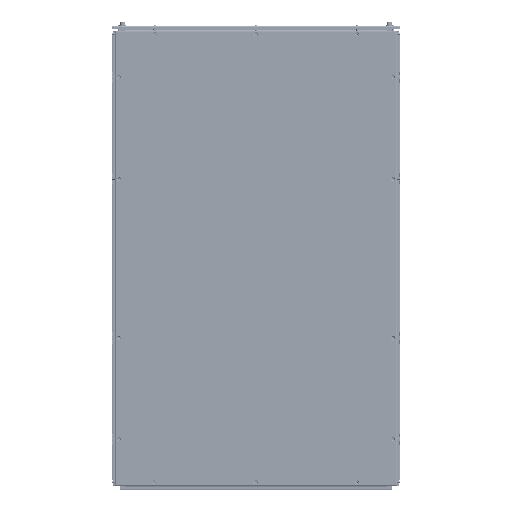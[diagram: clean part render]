
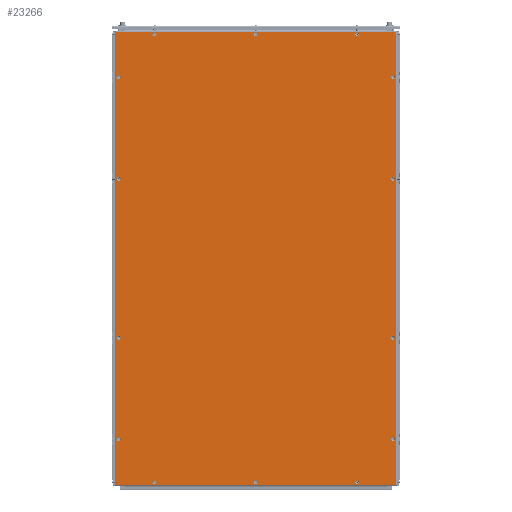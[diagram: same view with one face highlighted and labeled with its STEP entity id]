
A CAD part, left-side view. The second image highlights one B-rep face of the part: STEP entity #23266.
In plain terms, the highlighted planar face has unit normal (-1, 0, 0) as drawn and (1, 0, 0) by its records, which use the part's own axes.
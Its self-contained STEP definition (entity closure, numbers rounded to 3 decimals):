
#23266=ADVANCED_FACE('',(#136383,#136385,#136387,#136389,#136391,#136393,#136395,
#136397,#136399,#136401,#136403,#136405,#136407,#136409,#136411),#136413,.T.);
#136383=FACE_BOUND('',#136384,.T.);
#136384=EDGE_LOOP('',(#345913,#345914,#345915,#345916));
#136385=FACE_BOUND('',#136386,.T.);
#136386=EDGE_LOOP('',(#345917));
#136387=FACE_BOUND('',#136388,.T.);
#136388=EDGE_LOOP('',(#345918));
#136389=FACE_BOUND('',#136390,.T.);
#136390=EDGE_LOOP('',(#345919));
#136391=FACE_BOUND('',#136392,.T.);
#136392=EDGE_LOOP('',(#345920));
#136393=FACE_BOUND('',#136394,.T.);
#136394=EDGE_LOOP('',(#345921));
#136395=FACE_BOUND('',#136396,.T.);
#136396=EDGE_LOOP('',(#345922));
#136397=FACE_BOUND('',#136398,.T.);
#136398=EDGE_LOOP('',(#345923));
#136399=FACE_BOUND('',#136400,.T.);
#136400=EDGE_LOOP('',(#345924));
#136401=FACE_BOUND('',#136402,.T.);
#136402=EDGE_LOOP('',(#345925));
#136403=FACE_BOUND('',#136404,.T.);
#136404=EDGE_LOOP('',(#345926));
#136405=FACE_BOUND('',#136406,.T.);
#136406=EDGE_LOOP('',(#345927));
#136407=FACE_BOUND('',#136408,.T.);
#136408=EDGE_LOOP('',(#345928));
#136409=FACE_BOUND('',#136410,.T.);
#136410=EDGE_LOOP('',(#345929));
#136411=FACE_BOUND('',#136412,.T.);
#136412=EDGE_LOOP('',(#345930));
#136413=PLANE('',#136414);
#136414=AXIS2_PLACEMENT_3D('',#136415,#136416,#136417);
#136415=CARTESIAN_POINT('',(1.5,0.,0.));
#136416=DIRECTION('',(1.,0.,0.));
#136417=DIRECTION('',(0.,1.,0.));
#345913=ORIENTED_EDGE('',*,*,#387750,.T.);
#345914=ORIENTED_EDGE('',*,*,#387756,.T.);
#345915=ORIENTED_EDGE('',*,*,#387754,.T.);
#345916=ORIENTED_EDGE('',*,*,#387752,.T.);
#345917=ORIENTED_EDGE('',*,*,#387771,.T.);
#345918=ORIENTED_EDGE('',*,*,#387772,.T.);
#345919=ORIENTED_EDGE('',*,*,#387773,.T.);
#345920=ORIENTED_EDGE('',*,*,#387774,.T.);
#345921=ORIENTED_EDGE('',*,*,#387775,.T.);
#345922=ORIENTED_EDGE('',*,*,#387776,.T.);
#345923=ORIENTED_EDGE('',*,*,#387777,.T.);
#345924=ORIENTED_EDGE('',*,*,#387778,.T.);
#345925=ORIENTED_EDGE('',*,*,#387779,.T.);
#345926=ORIENTED_EDGE('',*,*,#387780,.T.);
#345927=ORIENTED_EDGE('',*,*,#387781,.T.);
#345928=ORIENTED_EDGE('',*,*,#387782,.T.);
#345929=ORIENTED_EDGE('',*,*,#387783,.T.);
#345930=ORIENTED_EDGE('',*,*,#387784,.T.);
#387750=EDGE_CURVE('',#443350,#443348,#443351,.T.);
#387752=EDGE_CURVE('',#443353,#443350,#443354,.T.);
#387754=EDGE_CURVE('',#443356,#443353,#443357,.T.);
#387756=EDGE_CURVE('',#443348,#443356,#443359,.T.);
#387771=EDGE_CURVE('',#443388,#443388,#443389,.F.);
#387772=EDGE_CURVE('',#443390,#443390,#443391,.F.);
#387773=EDGE_CURVE('',#443392,#443392,#443393,.F.);
#387774=EDGE_CURVE('',#443394,#443394,#443395,.F.);
#387775=EDGE_CURVE('',#443396,#443396,#443397,.F.);
#387776=EDGE_CURVE('',#443398,#443398,#443399,.F.);
#387777=EDGE_CURVE('',#443400,#443400,#443401,.F.);
#387778=EDGE_CURVE('',#443402,#443402,#443403,.F.);
#387779=EDGE_CURVE('',#443404,#443404,#443405,.F.);
#387780=EDGE_CURVE('',#443406,#443406,#443407,.F.);
#387781=EDGE_CURVE('',#443408,#443408,#443409,.F.);
#387782=EDGE_CURVE('',#443410,#443410,#443411,.F.);
#387783=EDGE_CURVE('',#443412,#443412,#443413,.F.);
#387784=EDGE_CURVE('',#443414,#443414,#443415,.T.);
#443348=VERTEX_POINT('',#569603);
#443350=VERTEX_POINT('',#569608);
#443351=LINE('',#569609,#569610);
#443353=VERTEX_POINT('',#569616);
#443354=LINE('',#569617,#569618);
#443356=VERTEX_POINT('',#569624);
#443357=LINE('',#569625,#569626);
#443359=LINE('',#569632,#569633);
#443388=VERTEX_POINT('',#569705);
#443389=CIRCLE('',#569706,6.954);
#443390=VERTEX_POINT('',#569710);
#443391=CIRCLE('',#569711,6.954);
#443392=VERTEX_POINT('',#569715);
#443393=CIRCLE('',#569716,6.954);
#443394=VERTEX_POINT('',#569720);
#443395=CIRCLE('',#569721,6.954);
#443396=VERTEX_POINT('',#569725);
#443397=CIRCLE('',#569726,6.954);
#443398=VERTEX_POINT('',#569730);
#443399=CIRCLE('',#569731,6.954);
#443400=VERTEX_POINT('',#569735);
#443401=CIRCLE('',#569736,6.954);
#443402=VERTEX_POINT('',#569740);
#443403=CIRCLE('',#569741,6.954);
#443404=VERTEX_POINT('',#569745);
#443405=CIRCLE('',#569746,6.954);
#443406=VERTEX_POINT('',#569750);
#443407=CIRCLE('',#569751,6.954);
#443408=VERTEX_POINT('',#569755);
#443409=CIRCLE('',#569756,6.954);
#443410=VERTEX_POINT('',#569760);
#443411=CIRCLE('',#569761,6.954);
#443412=VERTEX_POINT('',#569765);
#443413=CIRCLE('',#569766,6.954);
#443414=VERTEX_POINT('',#569770);
#443415=CIRCLE('',#569771,6.954);
#569603=CARTESIAN_POINT('',(1.5,-483.7,-782.7));
#569608=CARTESIAN_POINT('',(1.5,-483.7,782.7));
#569609=CARTESIAN_POINT('',(1.5,-483.7,782.7));
#569610=VECTOR('',#569611,1.);
#569611=DIRECTION('',(0.,0.,-1.));
#569616=CARTESIAN_POINT('',(1.5,483.7,782.7));
#569617=CARTESIAN_POINT('',(1.5,483.7,782.7));
#569618=VECTOR('',#569619,1.);
#569619=DIRECTION('',(0.,-1.,0.));
#569624=CARTESIAN_POINT('',(1.5,483.7,-782.7));
#569625=CARTESIAN_POINT('',(1.5,483.7,-782.7));
#569626=VECTOR('',#569627,1.);
#569627=DIRECTION('',(0.,0.,1.));
#569632=CARTESIAN_POINT('',(1.5,-483.7,-782.7));
#569633=VECTOR('',#569634,1.);
#569634=DIRECTION('',(0.,1.,0.));
#569705=CARTESIAN_POINT('',(1.5,6.954,-773.5));
#569706=AXIS2_PLACEMENT_3D('',#569707,#569708,#569709);
#569707=CARTESIAN_POINT('',(1.5,0.,-773.5));
#569708=DIRECTION('',(1.,0.,0.));
#569709=DIRECTION('',(0.,1.,0.));
#569710=CARTESIAN_POINT('',(1.5,6.954,773.5));
#569711=AXIS2_PLACEMENT_3D('',#569712,#569713,#569714);
#569712=CARTESIAN_POINT('',(1.5,0.,773.5));
#569713=DIRECTION('',(1.,0.,0.));
#569714=DIRECTION('',(0.,1.,0.));
#569715=CARTESIAN_POINT('',(1.5,356.954,773.5));
#569716=AXIS2_PLACEMENT_3D('',#569717,#569718,#569719);
#569717=CARTESIAN_POINT('',(1.5,350.,773.5));
#569718=DIRECTION('',(1.,0.,0.));
#569719=DIRECTION('',(0.,1.,0.));
#569720=CARTESIAN_POINT('',(1.5,356.954,-773.5));
#569721=AXIS2_PLACEMENT_3D('',#569722,#569723,#569724);
#569722=CARTESIAN_POINT('',(1.5,350.,-773.5));
#569723=DIRECTION('',(1.,0.,0.));
#569724=DIRECTION('',(0.,1.,0.));
#569725=CARTESIAN_POINT('',(1.5,-343.046,773.5));
#569726=AXIS2_PLACEMENT_3D('',#569727,#569728,#569729);
#569727=CARTESIAN_POINT('',(1.5,-350.,773.5));
#569728=DIRECTION('',(1.,0.,0.));
#569729=DIRECTION('',(0.,1.,0.));
#569730=CARTESIAN_POINT('',(1.5,-343.046,-773.5));
#569731=AXIS2_PLACEMENT_3D('',#569732,#569733,#569734);
#569732=CARTESIAN_POINT('',(1.5,-350.,-773.5));
#569733=DIRECTION('',(1.,0.,0.));
#569734=DIRECTION('',(0.,1.,0.));
#569735=CARTESIAN_POINT('',(1.5,480.454,-275.));
#569736=AXIS2_PLACEMENT_3D('',#569737,#569738,#569739);
#569737=CARTESIAN_POINT('',(1.5,473.5,-275.));
#569738=DIRECTION('',(1.,0.,0.));
#569739=DIRECTION('',(0.,1.,0.));
#569740=CARTESIAN_POINT('',(1.5,480.454,275.));
#569741=AXIS2_PLACEMENT_3D('',#569742,#569743,#569744);
#569742=CARTESIAN_POINT('',(1.5,473.5,275.));
#569743=DIRECTION('',(1.,0.,0.));
#569744=DIRECTION('',(0.,1.,0.));
#569745=CARTESIAN_POINT('',(1.5,-466.546,-275.));
#569746=AXIS2_PLACEMENT_3D('',#569747,#569748,#569749);
#569747=CARTESIAN_POINT('',(1.5,-473.5,-275.));
#569748=DIRECTION('',(1.,0.,0.));
#569749=DIRECTION('',(0.,1.,0.));
#569750=CARTESIAN_POINT('',(1.5,-466.546,275.));
#569751=AXIS2_PLACEMENT_3D('',#569752,#569753,#569754);
#569752=CARTESIAN_POINT('',(1.5,-473.5,275.));
#569753=DIRECTION('',(1.,0.,0.));
#569754=DIRECTION('',(0.,1.,0.));
#569755=CARTESIAN_POINT('',(1.5,480.454,625.));
#569756=AXIS2_PLACEMENT_3D('',#569757,#569758,#569759);
#569757=CARTESIAN_POINT('',(1.5,473.5,625.));
#569758=DIRECTION('',(1.,0.,0.));
#569759=DIRECTION('',(0.,1.,0.));
#569760=CARTESIAN_POINT('',(1.5,480.454,-625.));
#569761=AXIS2_PLACEMENT_3D('',#569762,#569763,#569764);
#569762=CARTESIAN_POINT('',(1.5,473.5,-625.));
#569763=DIRECTION('',(1.,0.,0.));
#569764=DIRECTION('',(0.,1.,0.));
#569765=CARTESIAN_POINT('',(1.5,-466.546,-625.));
#569766=AXIS2_PLACEMENT_3D('',#569767,#569768,#569769);
#569767=CARTESIAN_POINT('',(1.5,-473.5,-625.));
#569768=DIRECTION('',(1.,0.,0.));
#569769=DIRECTION('',(0.,1.,0.));
#569770=CARTESIAN_POINT('',(1.5,-466.546,625.));
#569771=AXIS2_PLACEMENT_3D('',#569772,#569773,#569774);
#569772=CARTESIAN_POINT('',(1.5,-473.5,625.));
#569773=DIRECTION('',(-1.,0.,0.));
#569774=DIRECTION('',(0.,1.,0.));
